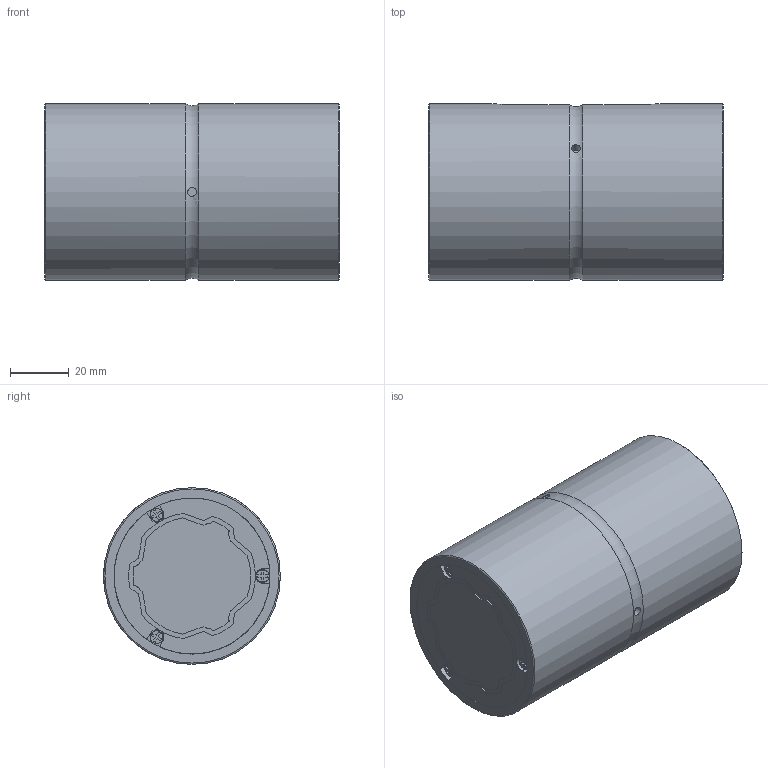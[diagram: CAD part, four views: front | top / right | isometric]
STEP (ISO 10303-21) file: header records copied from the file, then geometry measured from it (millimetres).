
FILE_DESCRIPTION(/* description */ ('STEP AP203'),/* implementation_level */ '2;1');
FILE_NAME(/* name */ 'SLS40L1100(00)',/* time_stamp */ '2024-05-23T11:46:51+02:00',/* author */ ('License CC BY-ND 4.0'),/* organization */ ('CADENAS'),/* preprocessor_version */ 'ST-DEVELOPER v19.3',/* originating_system */ 'PARTsolutions',/* authorisation */ ' ');
FILE_SCHEMA (('CONFIG_CONTROL_DESIGN'));
Length unit declared in the file: millimetre
Products named in the file (3): SLS40L1100(00); 40(L100); 40L cylinder
Assembly tree (2 placements, depth 2):
  SLS40L1100(00)
    40(L100)
    40L cylinder
Bounding box: 100 x 60 x 60 mm (x, y, z)
Volume: 279553.9 mm3; surface area: 51377.3 mm2
Topology: 2 solids, 2 shells, 266 faces, 724 edges, 481 vertices
Faces by surface type: plane 164, cylinder 93, torus 9
Full cylindrical faces by diameter (mm): 3 x3, 4.5 x6, 53 x2, 60 x2
Entity records: 8354 total; most frequent: CARTESIAN_POINT 1489, DIRECTION 1426, ORIENTED_EDGE 1392, EDGE_CURVE 696, LINE 490, VECTOR 490, VERTEX_POINT 474, AXIS2_PLACEMENT_3D 468
